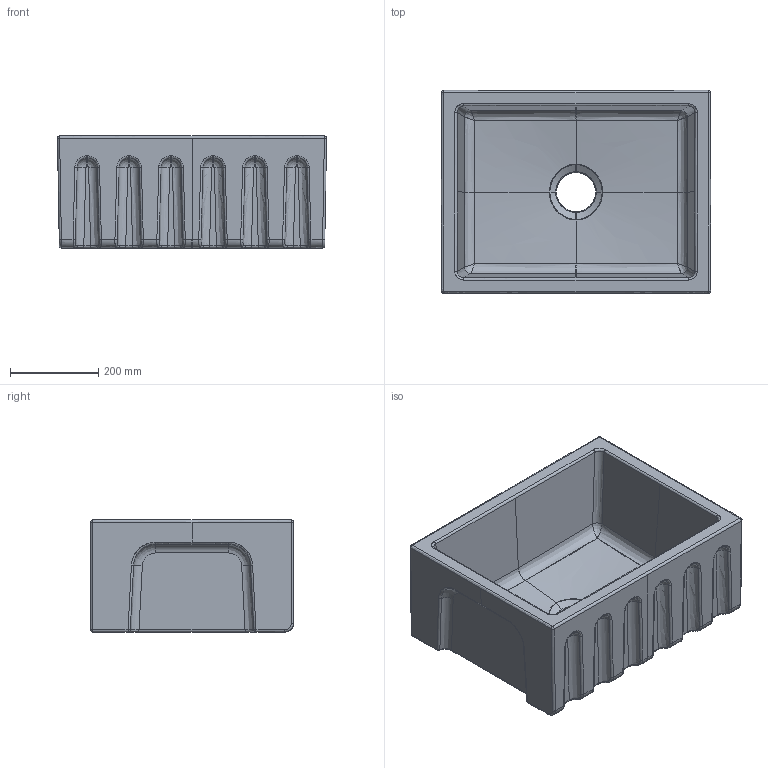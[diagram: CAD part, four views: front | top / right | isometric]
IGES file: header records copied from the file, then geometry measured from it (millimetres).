
Start section: START RECORD GO HERE.
Global section: file name: 5120_3D.igs; native system: DASSAULT SYSTEMES CATIA V5 R19 - www.3ds.com; preprocessor: CATIA Version 5 Release 19 SP 5 ; author: gioge; organization: LAPTOP-G94B6G74; date: 20201024.100254; units: millimetre
Bounding box: 610 x 460 x 254 mm (x, y, z)
Surface area: 1442773.2 mm2 (no closed solid volume)
Topology: 0 solids, 0 shells, 231 faces, 1070 edges, 1056 vertices
Faces by surface type: revolution 139, bspline 82, plane 10
